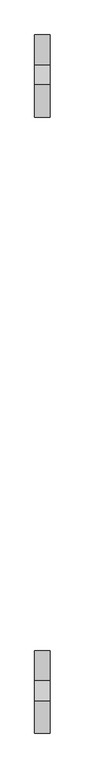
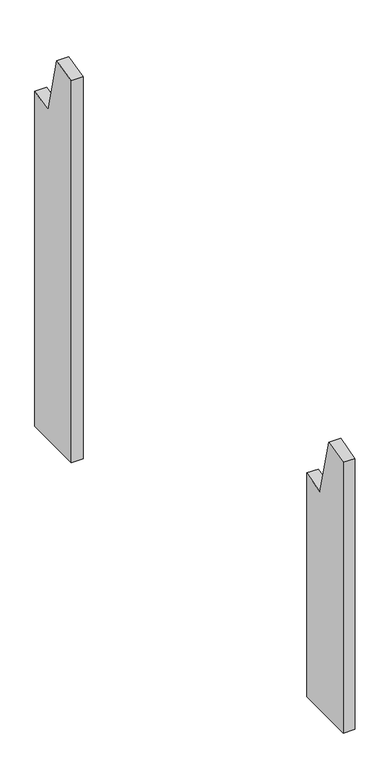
"""IFC4 building model written with IfcOpenShell, lengths in millimetres: proxy geometry, Modelos genéricos 106 : Modelos genéricos 5."""

import ifcopenshell
import ifcopenshell.guid

model = None  # the IFC model being written
_history = None  # IfcOwnerHistory: only IFC2X3 demands one
_inside = {}  # id of a spatial element -> (the spatial element, [elements in it])
_under = {}  # id of a project, library or spatial element -> (it, [spatial elements below it])
_declared = {}  # id of a project -> (the project, [libraries it declares])
_typed = {}  # id of a type object -> (the type object, [elements of that type])
_made_of = {}  # id of a material, layer set ... -> (it, [elements and type objects made of it])


def new_model(schema):
    """Start an empty IFC model of exactly this schema.

    Asked for "IFC4X3", IfcOpenShell would pick the latest addendum, in which some entities
    have other attributes; the version numbers below select the first issue.
    IFC2X3 requires an IfcOwnerHistory on every rooted entity: one is made here for all.
    """
    global model, _history
    if schema == "IFC4X3":
        model = ifcopenshell.file(schema_version=(4, 3, 0, 0))
    else:
        model = ifcopenshell.file(schema=schema)
    _inside.clear()
    _under.clear()
    _declared.clear()
    _typed.clear()
    _made_of.clear()
    _history = None
    if model.schema == "IFC2X3":
        org = make("IfcOrganization", Name="unknown")
        user = make(
            "IfcPersonAndOrganization",
            ThePerson=make("IfcPerson", FamilyName="unknown"),
            TheOrganization=org,
        )
        app = make(
            "IfcApplication",
            ApplicationDeveloper=org,
            Version="unknown",
            ApplicationFullName="unknown",
            ApplicationIdentifier="unknown",
        )
        _history = make(
            "IfcOwnerHistory",
            OwningUser=user,
            OwningApplication=app,
            ChangeAction="ADDED",
            CreationDate=0,
        )
    return model


def make(cls, **values):
    """One entity of the class cls with the attributes given. An attribute that is None is left unset."""
    return model.create_entity(
        cls, **{name: value for name, value in values.items() if value is not None}
    )


def rooted(cls, **values):
    """An entity with a GlobalId (a new one), such as an element, a storey or a relation."""
    return make(cls, GlobalId=ifcopenshell.guid.new(), OwnerHistory=_history, **values)


def si_unit(unit_type, name, prefix=None):
    """IfcSIUnit, for example si_unit("LENGTHUNIT", "METRE", prefix="MILLI")."""
    return make("IfcSIUnit", UnitType=unit_type, Prefix=prefix, Name=name)


def assignment(units):
    """IfcUnitAssignment: the units of a project."""
    return None if units is None else make("IfcUnitAssignment", Units=units)


def point(xyz):
    """IfcCartesianPoint."""
    return None if xyz is None else make("IfcCartesianPoint", Coordinates=xyz)


def direction(xyz):
    """IfcDirection."""
    return None if xyz is None else make("IfcDirection", DirectionRatios=xyz)


def frame(location, z_axis=None, x_axis=None):
    """IfcAxis2Placement3D, a coordinate frame: its origin and axes. An axis left out is left unset."""
    return make(
        "IfcAxis2Placement3D",
        Location=point(location),
        Axis=direction(z_axis),
        RefDirection=direction(x_axis),
    )


def origin():
    """The frame at (0, 0, 0) with its axes left unset."""
    return frame((0.0, 0.0, 0.0))


def place(relative_to, where):
    """IfcLocalPlacement: puts the frame where relative to a parent placement (None: the world)."""
    return make(
        "IfcLocalPlacement", PlacementRelTo=relative_to, RelativePlacement=where
    )


def context(
    kind, dimensions, precision=None, world=None, true_north=None, identifier=None
):
    """IfcGeometricRepresentationContext, for example the 3D "Model" context."""
    return make(
        "IfcGeometricRepresentationContext",
        ContextIdentifier=identifier,
        ContextType=kind,
        CoordinateSpaceDimension=dimensions,
        Precision=precision,
        WorldCoordinateSystem=world,
        TrueNorth=true_north,
    )


def project(units=None, contexts=None):
    """IfcProject with its units and contexts."""
    return rooted(
        "IfcProject",
        Name="project",
        RepresentationContexts=contexts,
        UnitsInContext=assignment(units),
    )


def spatial(cls, under=None, at=None, **own):
    """A site, building, storey or space (cls), placed at a placement, below another one or the project."""
    s = rooted(cls, ObjectPlacement=at, **own)
    if under is not None:
        _under.setdefault(under.id(), (under, []))[1].append(s)
    return s


def polyline(points):
    """IfcPolyline through the points."""
    return make("IfcPolyline", Points=[point(p) for p in points])


def outline(outer, holes=None, kind="AREA"):
    """IfcArbitraryClosedProfileDef: a profile drawn as a closed curve; with holes, ...WithVoids."""
    if holes is None:
        return make("IfcArbitraryClosedProfileDef", ProfileType=kind, OuterCurve=outer)
    return make(
        "IfcArbitraryProfileDefWithVoids",
        ProfileType=kind,
        OuterCurve=outer,
        InnerCurves=holes,
    )


def extrude(swept, where, along, depth):
    """IfcExtrudedAreaSolid: the profile swept, set in the frame where, extruded along a direction by depth."""
    return make(
        "IfcExtrudedAreaSolid",
        SweptArea=swept,
        Position=where,
        ExtrudedDirection=direction(along),
        Depth=depth,
    )


def shape(context_of_items, identifier, shape_type, items):
    """IfcShapeRepresentation: the items that make up one representation, for example the "Body"."""
    return make(
        "IfcShapeRepresentation",
        ContextOfItems=context_of_items,
        RepresentationIdentifier=identifier,
        RepresentationType=shape_type,
        Items=items,
    )


def source(mapping_origin, context_of_items, identifier, shape_type, items):
    """IfcRepresentationMap: a shape defined once, which mapped items show again and again."""
    return make(
        "IfcRepresentationMap",
        MappingOrigin=mapping_origin,
        MappedRepresentation=shape(context_of_items, identifier, shape_type, items),
    )


def transform(
    local_origin,
    x_axis=None,
    y_axis=None,
    z_axis=None,
    scale=None,
    scale2=None,
    scale3=None,
    uniform=True,
):
    """IfcCartesianTransformationOperator3D, or its non-uniform kind. x_axis, y_axis, z_axis: its Axis1, 2, 3."""
    if uniform:
        return make(
            "IfcCartesianTransformationOperator3D",
            Axis1=direction(x_axis),
            Axis2=direction(y_axis),
            LocalOrigin=point(local_origin),
            Scale=scale,
            Axis3=direction(z_axis),
        )
    return make(
        "IfcCartesianTransformationOperator3DnonUniform",
        Axis1=direction(x_axis),
        Axis2=direction(y_axis),
        LocalOrigin=point(local_origin),
        Scale=scale,
        Axis3=direction(z_axis),
        Scale2=scale2,
        Scale3=scale3,
    )


def mapped(mapping_source, mapping_target):
    """IfcMappedItem: shows the shape of a source again, moved by a transform."""
    return make(
        "IfcMappedItem", MappingSource=mapping_source, MappingTarget=mapping_target
    )


def made_of(thing, what):
    """Note that an element or type object is made of a material, layer set ...; save() writes the relation."""
    if what is not None:
        _made_of.setdefault(what.id(), (what, []))[1].append(thing)
    return thing


def element(
    cls,
    number,
    at=None,
    inside=None,
    cuts=None,
    type_object=None,
    material=None,
    context=None,
    identifier="Body",
    shape_type=None,
    held_by="IfcProductDefinitionShape",
    body=None,
    shapes=None,
    **own,
):
    """One element of the class cls, such as IfcWall. Its Tag is "e" and its number.

    at: its placement. inside: the storey or other place that contains it. cuts: it is an
    opening in that element (IfcRelVoidsElement). A single representation is given by context,
    identifier, shape_type and body (its items); several are given by shapes. held_by: the class
    of the entity that holds the representations. save() writes the other relations.
    """
    e = rooted(cls, Tag="e%d" % number, ObjectPlacement=at, **own)
    if body is not None:
        shapes = [shape(context, identifier, shape_type, body)]
    if shapes is not None:
        e.Representation = make(held_by, Representations=shapes)
    if inside is not None:
        _inside.setdefault(inside.id(), (inside, []))[1].append(e)
    if cuts is not None:
        rooted(
            "IfcRelVoidsElement", RelatingBuildingElement=cuts, RelatedOpeningElement=e
        )
    if type_object is not None:
        _typed.setdefault(type_object.id(), (type_object, []))[1].append(e)
    return made_of(e, material)


def aggregate(whole, parts):
    """IfcRelAggregates: a whole, such as a stair, and the parts it consists of."""
    return rooted("IfcRelAggregates", RelatingObject=whole, RelatedObjects=parts)


def save(model, path):
    """Write the relations noted so far, then the file.

    IfcRelAggregates (storeys below a building ...), IfcRelContainedInSpatialStructure (elements
    in a storey), IfcRelDefinesByType, IfcRelAssociatesMaterial and IfcRelDeclares: one each for
    every whole, place, type object, material and project.
    """
    for whole, parts in _under.values():
        aggregate(whole, parts)
    for where, things in _inside.values():
        rooted(
            "IfcRelContainedInSpatialStructure",
            RelatedElements=things,
            RelatingStructure=where,
        )
    for kind, things in _typed.values():
        rooted("IfcRelDefinesByType", RelatedObjects=things, RelatingType=kind)
    for what, things in _made_of.values():
        rooted("IfcRelAssociatesMaterial", RelatedObjects=things, RelatingMaterial=what)
    for by, libraries in _declared.values():
        rooted("IfcRelDeclares", RelatingContext=by, RelatedDefinitions=libraries)
    model.write(path)


def generic_models_9d3958d8(model_context):
    return source(origin(), model_context, "Body", "SweptSolid", [
        extrude(outline(polyline([(628.6238165, 3000.0), (468.6238165, 3000.0), (468.6238165, 4023.0972283), (531.6985696, 4038.8235305), (570.4060729, 3883.5762143), (628.6238165, 3898.0915281), (628.6238165, 3000.0)])), frame((5633.4472467, 0.0, 0.0), z_axis=(1.0, 0.0, 0.0), x_axis=(0.0, 1.0, 0.0)), (0.0, 0.0, 1.0), 30.0),
        extrude(outline(polyline([(-566.3761835, 3000.0), (-726.3761835, 3000.0), (-726.3761835, 3725.1502649), (-663.3014304, 3740.8765671), (-624.5939271, 3585.6292509), (-566.3761835, 3600.1445647), (-566.3761835, 3000.0)])), frame((5633.4472467, 0.0, 0.0), z_axis=(1.0, 0.0, 0.0), x_axis=(0.0, 1.0, 0.0)), (0.0, 0.0, 1.0), 30.0),
    ])


if __name__ == "__main__":
    model = new_model("IFC4")
    model_context = context("Model", 3, world=origin())
    ifc_project = project(units=[si_unit("LENGTHUNIT", "METRE", prefix="MILLI")], contexts=[model_context])
    site = spatial("IfcSite", under=ifc_project)
    building = spatial("IfcBuilding", under=site)
    placement = place(None, origin())
    generic_models_shape = generic_models_9d3958d8(model_context)
    element("IfcBuildingElementProxy", 1, Name="Modelos genéricos 106 : Modelos genéricos 5", ObjectType="Modelos genéricos 106 : Modelos genéricos 5", at=placement, inside=building, context=model_context, shape_type="MappedRepresentation", body=[
        mapped(generic_models_shape, transform((0.0, 0.0, 0.0), x_axis=(1.0, 0.0, 0.0), y_axis=(0.0, 1.0, 0.0), z_axis=(0.0, 0.0, 1.0))),
    ])
    save(model, "model.ifc")
